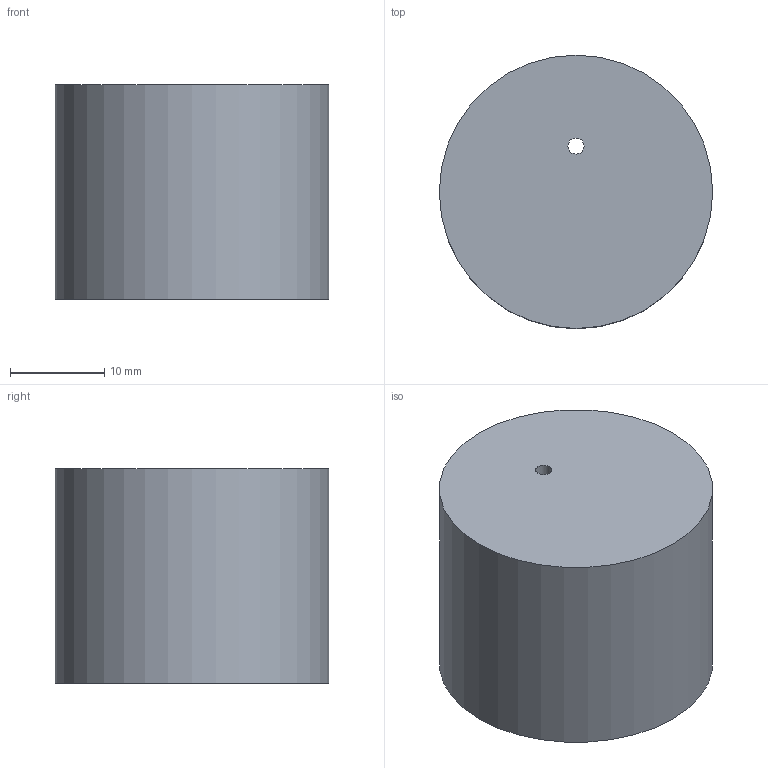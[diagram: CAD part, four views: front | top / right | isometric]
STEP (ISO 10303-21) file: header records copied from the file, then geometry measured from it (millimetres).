
FILE_DESCRIPTION( ('This file contains a STEP AP42 implementation' ,'as created by ZW3D STEP Interface translator.') ,'2;1' );
FILE_NAME( 'OGZ-27.stp' ,'26 521. 83740', (''), ('ZWCAD Software Co.'), 'Version 1.0', 'ZW3D to STEP translator', '' );
FILE_SCHEMA(('AP242_MANAGED_MODEL_BASED_3D_ENGINEERING_MIM_LF { 1 0 10303 442 1 1 4 }'));
Length unit declared in the file: millimetre
Products named in the file (1): 0
Bounding box: 29 x 29 x 22.7 mm (x, y, z)
Volume: 2975.2 mm3; surface area: 5185.4 mm2
Topology: 1 solids, 1 shells, 6 faces, 9 edges, 6 vertices
Faces by surface type: cylinder 3, plane 3
Full cylindrical faces by diameter (mm): 1.7 x1, 26.8 x1, 29 x1
Entity records: 169 total; most frequent: DIRECTION 29, CARTESIAN_POINT 22, ORIENTED_EDGE 18, AXIS2_PLACEMENT_3D 13, EDGE_CURVE 9, EDGE_LOOP 9, VERTEX_POINT 6, CIRCLE 6
